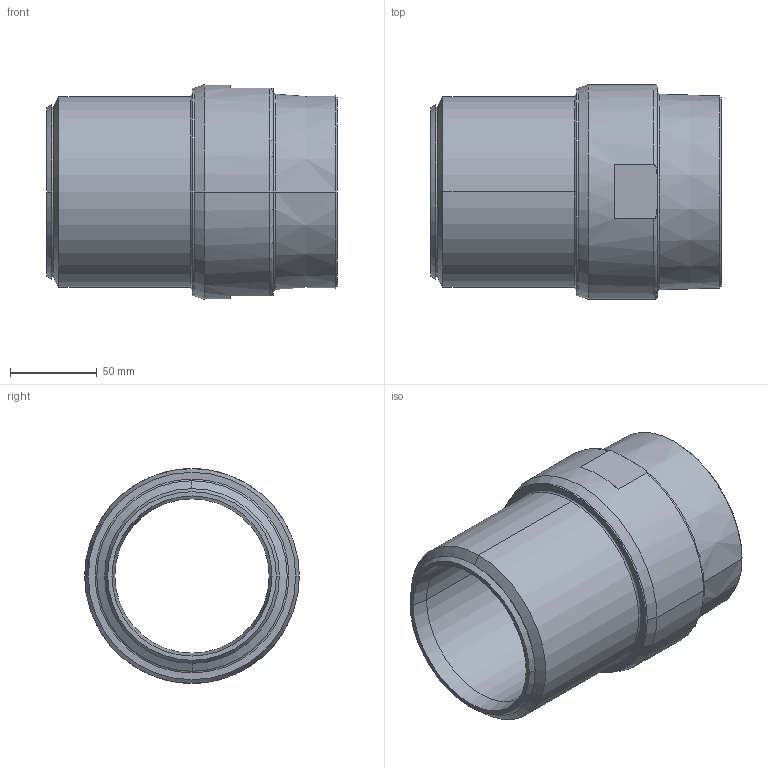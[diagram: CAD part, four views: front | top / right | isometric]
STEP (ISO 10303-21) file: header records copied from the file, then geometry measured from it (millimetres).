
FILE_DESCRIPTION (( 'STEP AP203' ), '1' );
FILE_NAME ('KP_C15-110M.step', '2011-08-08T12:03:55', ( '' ), ( '' ), 'SwSTEP 2.0', 'SolidWorks 2011', '' );
FILE_SCHEMA (( 'CONFIG_CONTROL_DESIGN' ));
Length unit declared in the file: millimetre
Products named in the file (1): KP_C15-110M
Bounding box: 168 x 124 x 124 mm (x, y, z)
Volume: 664207.6 mm3; surface area: 116290 mm2
Topology: 1 solids, 1 shells, 41 faces, 88 edges, 53 vertices
Faces by surface type: cylinder 12, cone 12, plane 10, torus 7
Entity records: 1295 total; most frequent: CARTESIAN_POINT 285, DIRECTION 222, ORIENTED_EDGE 176, AXIS2_PLACEMENT_3D 96, EDGE_CURVE 88, CIRCLE 54, VERTEX_POINT 53, EDGE_LOOP 47
